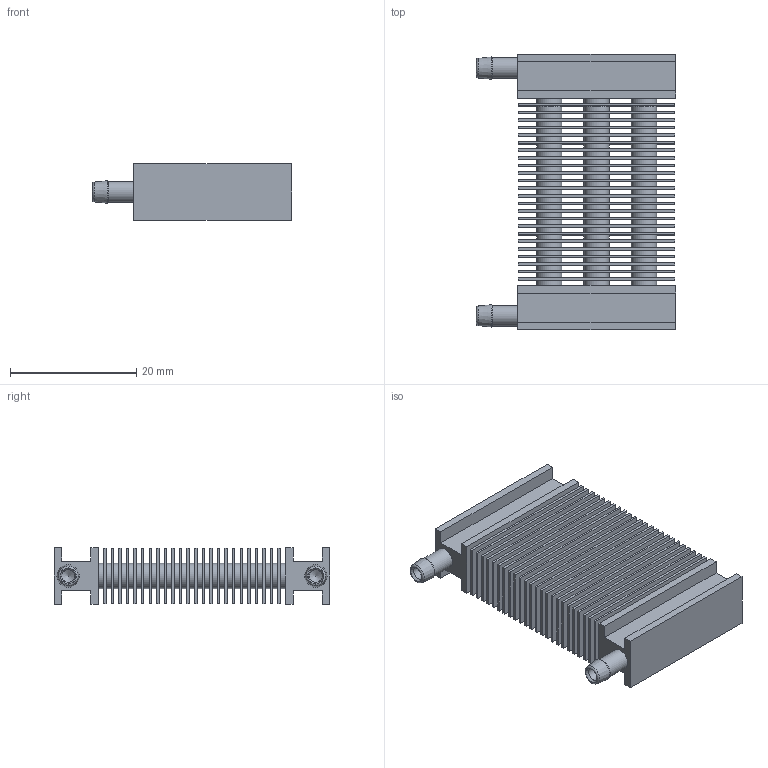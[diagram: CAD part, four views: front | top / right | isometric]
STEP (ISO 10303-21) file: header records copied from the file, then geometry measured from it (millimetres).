
FILE_DESCRIPTION (( 'STEP AP203' ), '1' );
FILE_NAME ('TCS-124 rev 1.STEP', '2016-09-28T08:32:35', ( 'DELL' ), ( '' ), 'SwSTEP 2.0', 'SolidWorks 2016', '' );
FILE_SCHEMA (( 'CONFIG_CONTROL_DESIGN' ));
Length unit declared in the file: millimetre
Products named in the file (6): P-0250; P-0566; P-0567_Cut Length 36.4; P-0432; P-0080; TCS-124 rev 1
Assembly tree (106 placements, depth 2):
  TCS-124 rev 1
    P-0250  x2
    P-0566  x24
    P-0567_Cut Length 36.4  x3
    P-0432  x75
    P-0080  x2
Bounding box: 31.5 x 43.6 x 9 mm (x, y, z)
Volume: 4506.2 mm3; surface area: 17455.8 mm2
Topology: 106 solids, 106 shells, 602 faces, 1152 edges, 766 vertices
Faces by surface type: plane 336, cylinder 242, cone 20, torus 4
Full cylindrical faces by diameter (mm): 1.6 x3, 2 x2, 2.34 x3, 2.4 x75, 2.41 x6, 2.55 x72, 2.95 x2, 3 x2, 3.25 x2, 4 x75
Entity records: 5386 total; most frequent: CARTESIAN_POINT 479, DIRECTION 448, CALENDAR_DATE 242, COORDINATED_UNIVERSAL_TIME_OFFSET 242, DATE_AND_TIME 242, LOCAL_TIME 242, AXIS2_PLACEMENT_3D 200, ORIENTED_EDGE 194
